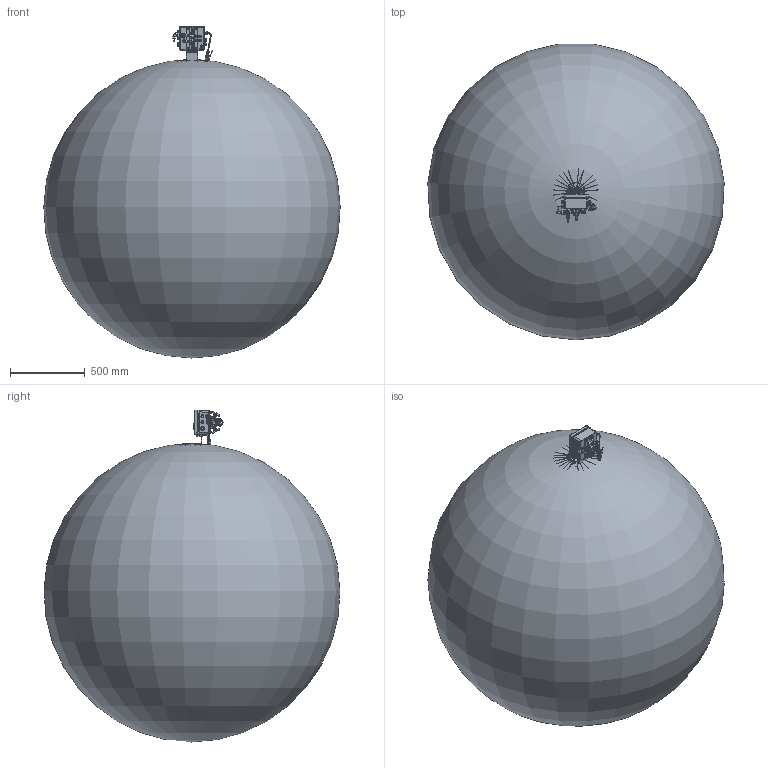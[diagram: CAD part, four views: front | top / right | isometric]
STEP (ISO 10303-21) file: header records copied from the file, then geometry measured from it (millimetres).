
FILE_DESCRIPTION(('STEP AP214'), '1');
FILE_NAME('ÑÃ-ÝÊÐ-Ò-Á DN100 ëåâûé ñ ÏÏÄ', '', ('UNSPECIFIED'), ('UNSPECIFIED'), 'C3D Converter', 'C3D Toolkit', '');
FILE_SCHEMA(('AUTOMOTIVE_DESIGN { 1 0 10303 214 3 1 1}'));
Length unit declared in the file: millimetre
Products named in the file (1): УРГП.407262.016
Bounding box: 1985.41 x 1982.05 x 2224.17 mm (x, y, z)
Volume: 4128309852.7 mm3; surface area: 13271295.1 mm2
Topology: 6 solids, 8 shells, 4450 faces, 11766 edges, 7612 vertices
Faces by surface type: plane 1503, extrusion 1133, cylinder 997, cone 384, bspline 298, torus 120, sphere 15
Full cylindrical faces by diameter (mm): 2 x29, 2.5 x4, 2.791 x1, 3 x3, 3.2 x2, 3.242 x8, 3.3 x2, 4 x26, 4.134 x3, 4.3 x2, 4.5 x2, 4.917 x4, 5 x16, 5.2 x4, 5.5 x6, 6 x28, 6.2 x4, 6.3 x6, 6.6 x2, 7 x11, 8 x5, 8.1 x1, 8.5 x1, 8.77 x2, 9.264 x3, 9.4 x4, 9.5 x1, 9.8 x2, 10 x24, 10.376 x3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
Entity records: 263675 total; most frequent: CARTESIAN_POINT 128056, ORIENTED_EDGE 22151, DIRECTION 16258, EDGE_CURVE 11156, VERTEX_POINT 7590, VECTOR 5626, EDGE_LOOP 5492, AXIS2_PLACEMENT_3D 5316
